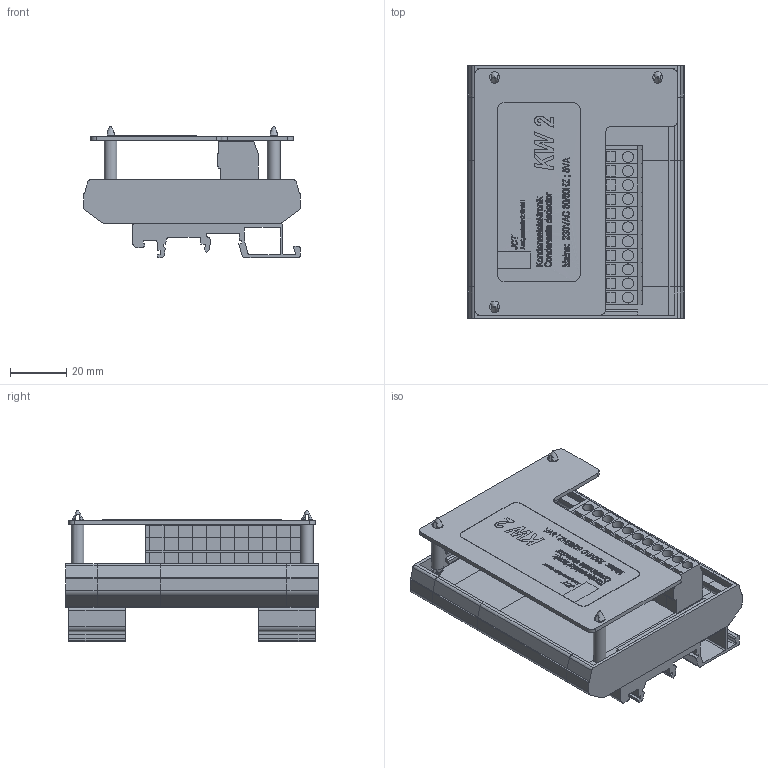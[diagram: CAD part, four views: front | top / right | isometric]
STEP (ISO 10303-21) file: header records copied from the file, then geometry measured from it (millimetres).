
FILE_DESCRIPTION(/* description */ ('Unknown'),/* implementation_level */ '2;1');
FILE_NAME(/* name */ 'KW-2 outline model DIN 35 rail mounting',/* time_stamp */ '2026-05-08T09:26:29+02:00',/* author */ ('Unknown'),/* organization */ ('Unknown'),/* preprocessor_version */ 'ST-DEVELOPER v20',/* originating_system */ 'Solid Edge',/* authorisation */ 'Unknown');
FILE_SCHEMA (('AUTOMOTIVE_DESIGN {1 0 10303 214 3 1 1}'));
Products named in the file (1): KW-2 outline model DIN 35 rail mounting
Bounding box: 77 x 89.9 x 46.65 mm (x, y, z)
Volume: 86201.7 mm3; surface area: 65875 mm2
Topology: 23 solids, 23 shells, 1747 faces, 4476 edges, 2995 vertices
Faces by surface type: plane 1359, cylinder 228, bspline 122, cone 38
Full cylindrical faces by diameter (mm): 3 x24, 3.1 x12, 3.5 x3, 3.9 x11, 4.5 x3
Entity records: 62207 total; most frequent: CARTESIAN_POINT 15721, ORIENTED_EDGE 8652, DIRECTION 7696, EDGE_CURVE 4326, LINE 3432, VECTOR 3432, VERTEX_POINT 2955, AXIS2_PLACEMENT_3D 2132
